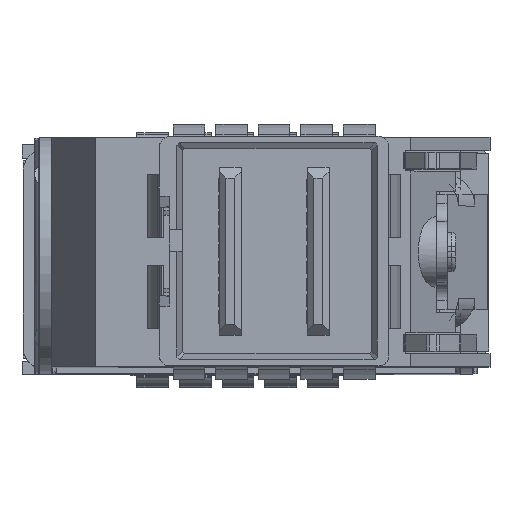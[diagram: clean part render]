
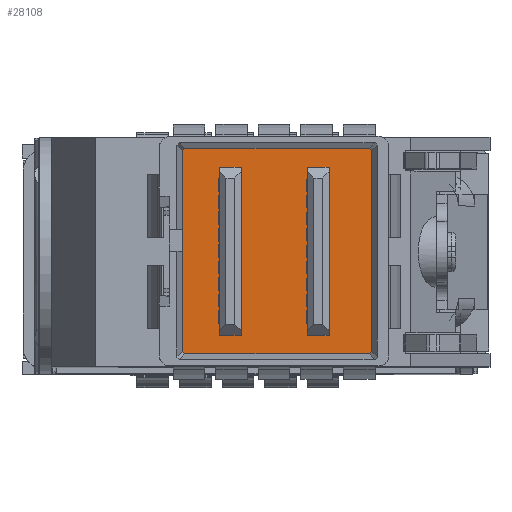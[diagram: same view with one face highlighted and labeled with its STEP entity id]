
A CAD part, top view. The second image highlights one B-rep face of the part: STEP entity #28108.
In plain terms, the highlighted planar face has unit normal (0, 0, 1).
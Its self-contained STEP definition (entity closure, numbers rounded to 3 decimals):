
#11680=CARTESIAN_POINT('',(4.34,-4.57,-6.3));
#11681=DIRECTION('',(0.,0.,1.));
#11682=DIRECTION('',(0.,-1.,0.));
#11683=AXIS2_PLACEMENT_3D('',#11680,#11681,#11682);
#11688=DIRECTION('',(1.,0.,0.));
#11689=VECTOR('',#11688,8.411);
#11690=CARTESIAN_POINT('',(-4.07,-4.675,-6.3));
#11691=LINE('',#11690,#11689);
#11695=CARTESIAN_POINT('',(-4.07,-4.57,-6.3));
#11696=DIRECTION('',(0.,0.,1.));
#11697=DIRECTION('',(-1.,0.,0.));
#11698=AXIS2_PLACEMENT_3D('',#11695,#11696,#11697);
#11703=DIRECTION('',(0.,-1.,0.));
#11704=VECTOR('',#11703,9.141);
#11705=CARTESIAN_POINT('',(-4.175,4.57,-6.3));
#11706=LINE('',#11705,#11704);
#11710=CARTESIAN_POINT('',(-4.07,4.57,-6.3));
#11711=DIRECTION('',(0.,0.,1.));
#11712=DIRECTION('',(0.,1.,0.));
#11713=AXIS2_PLACEMENT_3D('',#11710,#11711,#11712);
#11718=DIRECTION('',(-1.,0.,0.));
#11719=VECTOR('',#11718,8.411);
#11720=CARTESIAN_POINT('',(4.34,4.675,-6.3));
#11721=LINE('',#11720,#11719);
#11725=CARTESIAN_POINT('',(4.34,4.57,-6.3));
#11726=DIRECTION('',(0.,0.,1.));
#11727=DIRECTION('',(1.,0.,0.));
#11728=AXIS2_PLACEMENT_3D('',#11725,#11726,#11727);
#11733=DIRECTION('',(0.,1.,0.));
#11734=VECTOR('',#11733,9.141);
#11735=CARTESIAN_POINT('',(4.445,-4.57,-6.3));
#11736=LINE('',#11735,#11734);
#11740=DIRECTION('',(-1.,0.,0.));
#11741=VECTOR('',#11740,1.);
#11742=CARTESIAN_POINT('',(2.505,-3.825,-6.3));
#11743=LINE('',#11742,#11741);
#11747=DIRECTION('',(0.,1.,0.));
#11748=VECTOR('',#11747,7.65);
#11749=CARTESIAN_POINT('',(2.505,-3.825,-6.3));
#11750=LINE('',#11749,#11748);
#11754=DIRECTION('',(-1.,0.,0.));
#11755=VECTOR('',#11754,1.);
#11756=CARTESIAN_POINT('',(2.505,3.825,-6.3));
#11757=LINE('',#11756,#11755);
#11761=DIRECTION('',(0.,1.,0.));
#11762=VECTOR('',#11761,7.65);
#11763=CARTESIAN_POINT('',(1.505,-3.825,-6.3));
#11764=LINE('',#11763,#11762);
#11768=DIRECTION('',(-1.,0.,0.));
#11769=VECTOR('',#11768,1.);
#11770=CARTESIAN_POINT('',(-1.495,-3.825,-6.3));
#11771=LINE('',#11770,#11769);
#11775=DIRECTION('',(0.,1.,0.));
#11776=VECTOR('',#11775,7.65);
#11777=CARTESIAN_POINT('',(-1.495,-3.825,-6.3));
#11778=LINE('',#11777,#11776);
#11782=DIRECTION('',(-1.,0.,0.));
#11783=VECTOR('',#11782,1.);
#11784=CARTESIAN_POINT('',(-1.495,3.825,-6.3));
#11785=LINE('',#11784,#11783);
#11789=DIRECTION('',(0.,1.,0.));
#11790=VECTOR('',#11789,7.65);
#11791=CARTESIAN_POINT('',(-2.495,-3.825,-6.3));
#11792=LINE('',#11791,#11790);
#16660=CARTESIAN_POINT('',(4.34,-4.675,-6.3));
#16661=CARTESIAN_POINT('',(4.445,-4.57,-6.3));
#16662=VERTEX_POINT('',#16660);
#16663=VERTEX_POINT('',#16661);
#16673=CARTESIAN_POINT('',(4.445,4.57,-6.3));
#16674=CARTESIAN_POINT('',(4.34,4.675,-6.3));
#16675=VERTEX_POINT('',#16673);
#16676=VERTEX_POINT('',#16674);
#16686=CARTESIAN_POINT('',(-4.07,4.675,-6.3));
#16687=CARTESIAN_POINT('',(-4.175,4.57,-6.3));
#16688=VERTEX_POINT('',#16686);
#16689=VERTEX_POINT('',#16687);
#16699=CARTESIAN_POINT('',(-4.175,-4.57,-6.3));
#16700=CARTESIAN_POINT('',(-4.07,-4.675,-6.3));
#16701=VERTEX_POINT('',#16699);
#16702=VERTEX_POINT('',#16700);
#17025=CARTESIAN_POINT('',(2.505,-3.825,-6.3));
#17026=CARTESIAN_POINT('',(1.505,-3.825,-6.3));
#17027=VERTEX_POINT('',#17025);
#17028=VERTEX_POINT('',#17026);
#17029=CARTESIAN_POINT('',(-1.495,-3.825,-6.3));
#17030=CARTESIAN_POINT('',(-2.495,-3.825,-6.3));
#17031=VERTEX_POINT('',#17029);
#17032=VERTEX_POINT('',#17030);
#17033=CARTESIAN_POINT('',(2.505,3.825,-6.3));
#17034=CARTESIAN_POINT('',(1.505,3.825,-6.3));
#17035=VERTEX_POINT('',#17033);
#17036=VERTEX_POINT('',#17034);
#17037=CARTESIAN_POINT('',(-1.495,3.825,-6.3));
#17038=CARTESIAN_POINT('',(-2.495,3.825,-6.3));
#17039=VERTEX_POINT('',#17037);
#17040=VERTEX_POINT('',#17038);
#28066=CARTESIAN_POINT('',(0.,0.,-6.3));
#28067=DIRECTION('',(0.,0.,1.));
#28068=DIRECTION('',(0.,-1.,0.));
#28069=AXIS2_PLACEMENT_3D('',#28066,#28067,#28068);
#28070=PLANE('',#28069);
#28071=ORIENTED_EDGE('',*,*,#28052,.F.);
#28073=ORIENTED_EDGE('',*,*,#28072,.F.);
#28075=ORIENTED_EDGE('',*,*,#28074,.F.);
#28077=ORIENTED_EDGE('',*,*,#28076,.F.);
#28079=ORIENTED_EDGE('',*,*,#28078,.F.);
#28081=ORIENTED_EDGE('',*,*,#28080,.F.);
#28083=ORIENTED_EDGE('',*,*,#28082,.F.);
#28085=ORIENTED_EDGE('',*,*,#28084,.F.);
#28086=EDGE_LOOP('',(#28071,#28073,#28075,#28077,#28079,#28081,#28083,#28085));
#28087=FACE_OUTER_BOUND('',#28086,.F.);
#28089=ORIENTED_EDGE('',*,*,#28088,.F.);
#28091=ORIENTED_EDGE('',*,*,#28090,.T.);
#28093=ORIENTED_EDGE('',*,*,#28092,.T.);
#28095=ORIENTED_EDGE('',*,*,#28094,.F.);
#28096=EDGE_LOOP('',(#28089,#28091,#28093,#28095));
#28097=FACE_BOUND('',#28096,.F.);
#28099=ORIENTED_EDGE('',*,*,#28098,.F.);
#28101=ORIENTED_EDGE('',*,*,#28100,.T.);
#28103=ORIENTED_EDGE('',*,*,#28102,.T.);
#28105=ORIENTED_EDGE('',*,*,#28104,.F.);
#28106=EDGE_LOOP('',(#28099,#28101,#28103,#28105));
#28107=FACE_BOUND('',#28106,.F.);
#11684=CIRCLE('',#11683,0.105);
#11699=CIRCLE('',#11698,0.105);
#11714=CIRCLE('',#11713,0.105);
#11729=CIRCLE('',#11728,0.105);
#28052=EDGE_CURVE('',#16662,#16663,#11684,.T.);
#28072=EDGE_CURVE('',#16702,#16662,#11691,.T.);
#28074=EDGE_CURVE('',#16701,#16702,#11699,.T.);
#28076=EDGE_CURVE('',#16689,#16701,#11706,.T.);
#28078=EDGE_CURVE('',#16688,#16689,#11714,.T.);
#28080=EDGE_CURVE('',#16676,#16688,#11721,.T.);
#28082=EDGE_CURVE('',#16675,#16676,#11729,.T.);
#28084=EDGE_CURVE('',#16663,#16675,#11736,.T.);
#28088=EDGE_CURVE('',#17027,#17028,#11743,.T.);
#28090=EDGE_CURVE('',#17027,#17035,#11750,.T.);
#28092=EDGE_CURVE('',#17035,#17036,#11757,.T.);
#28094=EDGE_CURVE('',#17028,#17036,#11764,.T.);
#28098=EDGE_CURVE('',#17031,#17032,#11771,.T.);
#28100=EDGE_CURVE('',#17031,#17039,#11778,.T.);
#28102=EDGE_CURVE('',#17039,#17040,#11785,.T.);
#28104=EDGE_CURVE('',#17032,#17040,#11792,.T.);
#28108=ADVANCED_FACE('',(#28087,#28097,#28107),#28070,.T.);
